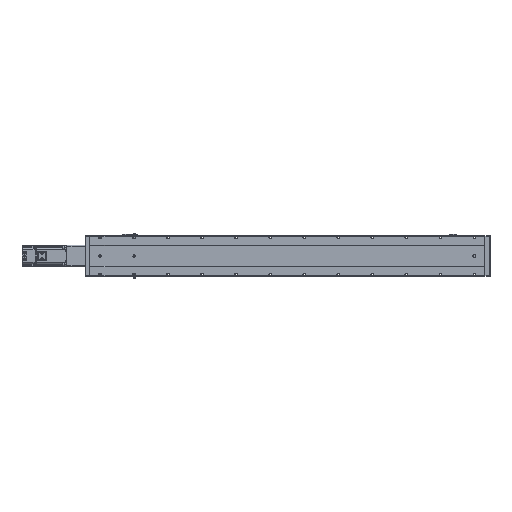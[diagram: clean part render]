
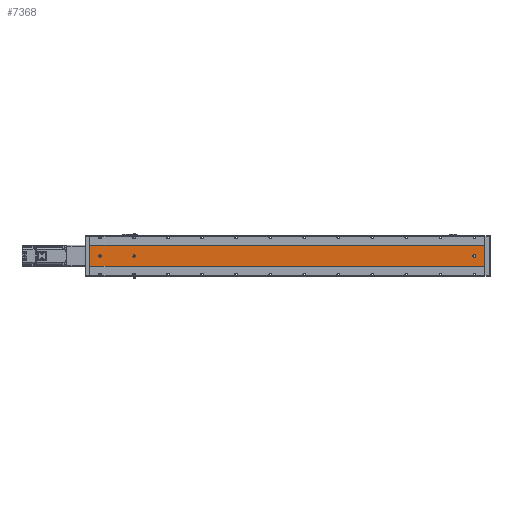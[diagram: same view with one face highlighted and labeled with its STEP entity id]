
A CAD part, front view. The second image highlights one B-rep face of the part: STEP entity #7368.
In plain terms, the highlighted planar face has unit normal (0, -1, 0).
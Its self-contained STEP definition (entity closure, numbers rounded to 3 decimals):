
#1031 = CARTESIAN_POINT ( 'NONE',  ( -39.892, -52.848, 1034.5 ) ) ;
#1166 = AXIS2_PLACEMENT_3D ( 'NONE', #12858, #43294, #87775 ) ;
#2430 = ORIENTED_EDGE ( 'NONE', *, *, #5279, .F. ) ;
#3522 = DIRECTION ( 'NONE',  ( 0., 0., 1. ) ) ;
#5162 = VECTOR ( 'NONE', #34829, 1000. ) ;
#5279 = EDGE_CURVE ( 'NONE', #33566, #56967, #6275, .T. ) ;
#5626 = CARTESIAN_POINT ( 'NONE',  ( -9.892, -52.848, 1161. ) ) ;
#5968 = ORIENTED_EDGE ( 'NONE', *, *, #35631, .T. ) ;
#6275 = LINE ( 'NONE', #5626, #5162 ) ;
#6313 = EDGE_LOOP ( 'NONE', ( #5968, #57784 ) ) ;
#6815 = CARTESIAN_POINT ( 'NONE',  ( -39.892, -52.848, 1131. ) ) ;
#7368 = ADVANCED_FACE ( 'NONE', ( #78029, #40218, #72082, #33912 ), #19173, .F. ) ;
#7384 = CARTESIAN_POINT ( 'NONE',  ( -39.892, -52.848, 1131. ) ) ;
#7938 = VERTEX_POINT ( 'NONE', #65462 ) ;
#8145 = VECTOR ( 'NONE', #25415, 1000. ) ;
#9947 = CARTESIAN_POINT ( 'NONE',  ( -39.892, -52.848, 1031. ) ) ;
#12448 = EDGE_CURVE ( 'NONE', #85019, #56967, #34609, .T. ) ;
#12858 = CARTESIAN_POINT ( 'NONE',  ( -39.892, -52.848, 1031. ) ) ;
#13039 = CARTESIAN_POINT ( 'NONE',  ( -39.892, -52.848, 32. ) ) ;
#14838 = DIRECTION ( 'NONE',  ( 0., 1., 0. ) ) ;
#15291 = LINE ( 'NONE', #83550, #67579 ) ;
#16415 = EDGE_CURVE ( 'NONE', #17223, #7938, #25534, .T. ) ;
#16725 = VERTEX_POINT ( 'NONE', #36755 ) ;
#16738 = ORIENTED_EDGE ( 'NONE', *, *, #41642, .T. ) ;
#17223 = VERTEX_POINT ( 'NONE', #53235 ) ;
#17248 = LINE ( 'NONE', #95108, #36982 ) ;
#17697 = ORIENTED_EDGE ( 'NONE', *, *, #96290, .T. ) ;
#17801 = CARTESIAN_POINT ( 'NONE',  ( -39.892, -52.848, 26.5 ) ) ;
#19173 = PLANE ( 'NONE',  #51798 ) ;
#20155 = DIRECTION ( 'NONE',  ( 0., 1., 0. ) ) ;
#20232 = CARTESIAN_POINT ( 'NONE',  ( -39.892, -52.848, 1127.5 ) ) ;
#22026 = DIRECTION ( 'NONE',  ( 1., 0., 0. ) ) ;
#23622 = DIRECTION ( 'NONE',  ( 0., 1., 0. ) ) ;
#24270 = EDGE_CURVE ( 'NONE', #40525, #28858, #95748, .T. ) ;
#25415 = DIRECTION ( 'NONE',  ( 0., 0., -1. ) ) ;
#25534 = LINE ( 'NONE', #45905, #8145 ) ;
#28858 = VERTEX_POINT ( 'NONE', #20232 ) ;
#29015 = ORIENTED_EDGE ( 'NONE', *, *, #70799, .F. ) ;
#29161 = EDGE_LOOP ( 'NONE', ( #91282, #2430, #29015, #35397 ) ) ;
#32006 = DIRECTION ( 'NONE',  ( 0., 0., 1. ) ) ;
#33060 = AXIS2_PLACEMENT_3D ( 'NONE', #13039, #20155, #64986 ) ;
#33566 = VERTEX_POINT ( 'NONE', #35178 ) ;
#33912 = FACE_OUTER_BOUND ( 'NONE', #29161, .T. ) ;
#34609 = LINE ( 'NONE', #60631, #93853 ) ;
#34677 = EDGE_CURVE ( 'NONE', #7938, #60590, #85854, .T. ) ;
#34829 = DIRECTION ( 'NONE',  ( 0., 0., -1. ) ) ;
#35131 = CIRCLE ( 'NONE', #38697, 3.5 ) ;
#35178 = CARTESIAN_POINT ( 'NONE',  ( -9.892, -52.848, 1161. ) ) ;
#35397 = ORIENTED_EDGE ( 'NONE', *, *, #59106, .T. ) ;
#35631 = EDGE_CURVE ( 'NONE', #28858, #40525, #95039, .T. ) ;
#36002 = ORIENTED_EDGE ( 'NONE', *, *, #16415, .T. ) ;
#36755 = CARTESIAN_POINT ( 'NONE',  ( -39.892, -52.848, 1027.5 ) ) ;
#36794 = EDGE_LOOP ( 'NONE', ( #16738, #75592 ) ) ;
#36982 = VECTOR ( 'NONE', #22026, 1000. ) ;
#36995 = DIRECTION ( 'NONE',  ( 0., 1., 0. ) ) ;
#37234 = VERTEX_POINT ( 'NONE', #61939 ) ;
#38242 = CARTESIAN_POINT ( 'NONE',  ( -39.892, -52.848, 30. ) ) ;
#38697 = AXIS2_PLACEMENT_3D ( 'NONE', #38242, #23622, #67532 ) ;
#39066 = DIRECTION ( 'NONE',  ( 0., 0., 1. ) ) ;
#40218 = FACE_BOUND ( 'NONE', #36794, .T. ) ;
#40525 = VERTEX_POINT ( 'NONE', #80517 ) ;
#41553 = DIRECTION ( 'NONE',  ( 0., 0., 1. ) ) ;
#41642 = EDGE_CURVE ( 'NONE', #16725, #44895, #94504, .T. ) ;
#42239 = ORIENTED_EDGE ( 'NONE', *, *, #76524, .T. ) ;
#43294 = DIRECTION ( 'NONE',  ( 0., 1., 0. ) ) ;
#44237 = VERTEX_POINT ( 'NONE', #89077 ) ;
#44774 = CARTESIAN_POINT ( 'NONE',  ( -69.892, -52.848, 1161. ) ) ;
#44895 = VERTEX_POINT ( 'NONE', #1031 ) ;
#44941 = CARTESIAN_POINT ( 'NONE',  ( -69.892, -52.848, 0. ) ) ;
#45905 = CARTESIAN_POINT ( 'NONE',  ( -36.392, -52.848, 1161. ) ) ;
#46097 = LINE ( 'NONE', #44774, #82153 ) ;
#51798 = AXIS2_PLACEMENT_3D ( 'NONE', #71133, #56862, #41553 ) ;
#53235 = CARTESIAN_POINT ( 'NONE',  ( -36.392, -52.848, 32. ) ) ;
#53638 = EDGE_CURVE ( 'NONE', #44895, #16725, #66104, .T. ) ;
#55389 = ORIENTED_EDGE ( 'NONE', *, *, #88404, .T. ) ;
#56862 = DIRECTION ( 'NONE',  ( 0., 1., 0. ) ) ;
#56967 = VERTEX_POINT ( 'NONE', #87097 ) ;
#57784 = ORIENTED_EDGE ( 'NONE', *, *, #24270, .T. ) ;
#59106 = EDGE_CURVE ( 'NONE', #90388, #85019, #46097, .T. ) ;
#59394 = CIRCLE ( 'NONE', #33060, 3.5 ) ;
#60590 = VERTEX_POINT ( 'NONE', #17801 ) ;
#60631 = CARTESIAN_POINT ( 'NONE',  ( -69.892, -52.848, 0. ) ) ;
#61075 = AXIS2_PLACEMENT_3D ( 'NONE', #9947, #75826, #32006 ) ;
#61939 = CARTESIAN_POINT ( 'NONE',  ( -43.392, -52.848, 32. ) ) ;
#64986 = DIRECTION ( 'NONE',  ( 0., 0., 1. ) ) ;
#65462 = CARTESIAN_POINT ( 'NONE',  ( -36.392, -52.848, 30. ) ) ;
#66104 = CIRCLE ( 'NONE', #61075, 3.5 ) ;
#67320 = AXIS2_PLACEMENT_3D ( 'NONE', #6815, #36995, #96069 ) ;
#67532 = DIRECTION ( 'NONE',  ( 0., 0., 1. ) ) ;
#67579 = VECTOR ( 'NONE', #39066, 1000. ) ;
#68091 = DIRECTION ( 'NONE',  ( 1., 0., 0. ) ) ;
#70799 = EDGE_CURVE ( 'NONE', #90388, #33566, #17248, .T. ) ;
#71133 = CARTESIAN_POINT ( 'NONE',  ( -69.892, -52.848, 1161. ) ) ;
#71661 = CARTESIAN_POINT ( 'NONE',  ( -39.892, -52.848, 30. ) ) ;
#72082 = FACE_BOUND ( 'NONE', #6313, .T. ) ;
#74049 = EDGE_LOOP ( 'NONE', ( #17697, #42239, #36002, #93414, #55389 ) ) ;
#75592 = ORIENTED_EDGE ( 'NONE', *, *, #53638, .T. ) ;
#75826 = DIRECTION ( 'NONE',  ( 0., 1., 0. ) ) ;
#76524 = EDGE_CURVE ( 'NONE', #37234, #17223, #59394, .T. ) ;
#78029 = FACE_BOUND ( 'NONE', #74049, .T. ) ;
#79590 = AXIS2_PLACEMENT_3D ( 'NONE', #7384, #14838, #88155 ) ;
#80517 = CARTESIAN_POINT ( 'NONE',  ( -39.892, -52.848, 1134.5 ) ) ;
#82153 = VECTOR ( 'NONE', #96097, 1000. ) ;
#83446 = CARTESIAN_POINT ( 'NONE',  ( -69.892, -52.848, 1161. ) ) ;
#83550 = CARTESIAN_POINT ( 'NONE',  ( -43.392, -52.848, 1161. ) ) ;
#85019 = VERTEX_POINT ( 'NONE', #44941 ) ;
#85854 = CIRCLE ( 'NONE', #90271, 3.5 ) ;
#87097 = CARTESIAN_POINT ( 'NONE',  ( -9.892, -52.848, 0. ) ) ;
#87775 = DIRECTION ( 'NONE',  ( 0., 0., 1. ) ) ;
#88155 = DIRECTION ( 'NONE',  ( 0., 0., 1. ) ) ;
#88404 = EDGE_CURVE ( 'NONE', #60590, #44237, #35131, .T. ) ;
#89077 = CARTESIAN_POINT ( 'NONE',  ( -43.392, -52.848, 30. ) ) ;
#90271 = AXIS2_PLACEMENT_3D ( 'NONE', #71661, #94068, #3522 ) ;
#90388 = VERTEX_POINT ( 'NONE', #83446 ) ;
#91282 = ORIENTED_EDGE ( 'NONE', *, *, #12448, .T. ) ;
#93414 = ORIENTED_EDGE ( 'NONE', *, *, #34677, .T. ) ;
#93853 = VECTOR ( 'NONE', #68091, 1000. ) ;
#94068 = DIRECTION ( 'NONE',  ( 0., 1., 0. ) ) ;
#94504 = CIRCLE ( 'NONE', #1166, 3.5 ) ;
#95039 = CIRCLE ( 'NONE', #67320, 3.5 ) ;
#95108 = CARTESIAN_POINT ( 'NONE',  ( -69.892, -52.848, 1161. ) ) ;
#95748 = CIRCLE ( 'NONE', #79590, 3.5 ) ;
#96069 = DIRECTION ( 'NONE',  ( 0., 0., 1. ) ) ;
#96097 = DIRECTION ( 'NONE',  ( 0., 0., -1. ) ) ;
#96290 = EDGE_CURVE ( 'NONE', #44237, #37234, #15291, .T. ) ;
